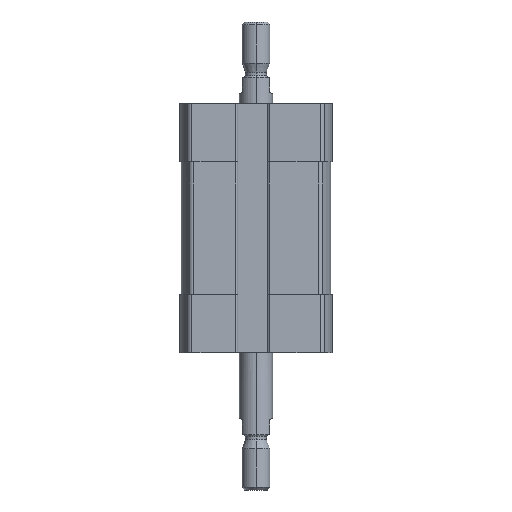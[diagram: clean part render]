
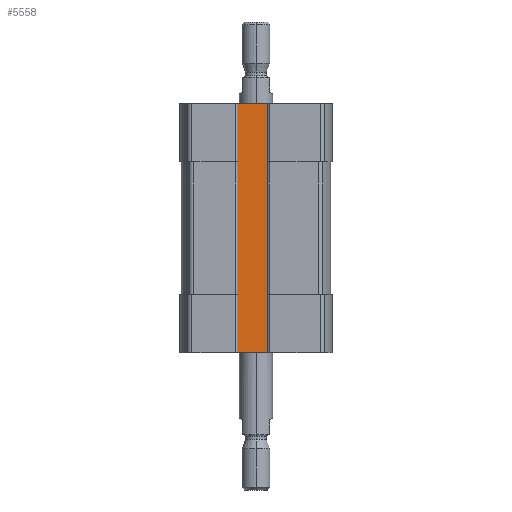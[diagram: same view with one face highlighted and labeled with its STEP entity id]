
A CAD part, left-side view. The second image highlights one B-rep face of the part: STEP entity #5558.
In plain terms, the highlighted planar face has unit normal (-1, 0, 0).
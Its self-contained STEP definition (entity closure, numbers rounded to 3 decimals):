
#625 = VERTEX_POINT ( 'NONE', #986 ) ;
#986 = CARTESIAN_POINT ( 'NONE',  ( -8.3, 3.6, 0. ) ) ;
#1101 = DIRECTION ( 'NONE',  ( 0., -1., 0. ) ) ;
#1562 = CARTESIAN_POINT ( 'NONE',  ( -8.3, 3.6, -45. ) ) ;
#1595 = VERTEX_POINT ( 'NONE', #3429 ) ;
#1649 = ORIENTED_EDGE ( 'NONE', *, *, #9228, .F. ) ;
#1674 = PLANE ( 'NONE',  #7611 ) ;
#1834 = ORIENTED_EDGE ( 'NONE', *, *, #1843, .T. ) ;
#1843 = EDGE_CURVE ( 'NONE', #1595, #7880, #7346, .T. ) ;
#2472 = CARTESIAN_POINT ( 'NONE',  ( -8.3, -2.4, 0. ) ) ;
#2666 = LINE ( 'NONE', #8158, #4056 ) ;
#3360 = DIRECTION ( 'NONE',  ( -1., 0., 0. ) ) ;
#3429 = CARTESIAN_POINT ( 'NONE',  ( -8.3, 3.6, -45. ) ) ;
#4056 = VECTOR ( 'NONE', #11775, 1000. ) ;
#4622 = VECTOR ( 'NONE', #10766, 1000. ) ;
#4724 = LINE ( 'NONE', #5561, #11575 ) ;
#5172 = VERTEX_POINT ( 'NONE', #2472 ) ;
#5320 = DIRECTION ( 'NONE',  ( 0., 0., 1. ) ) ;
#5538 = LINE ( 'NONE', #9931, #4622 ) ;
#5558 = ADVANCED_FACE ( 'NONE', ( #6265 ), #1674, .T. ) ;
#5561 = CARTESIAN_POINT ( 'NONE',  ( -8.3, 3.6, -45. ) ) ;
#5969 = CARTESIAN_POINT ( 'NONE',  ( -8.3, -2.4, -45. ) ) ;
#6006 = ORIENTED_EDGE ( 'NONE', *, *, #9286, .T. ) ;
#6265 = FACE_OUTER_BOUND ( 'NONE', #8925, .T. ) ;
#6887 = VECTOR ( 'NONE', #1101, 1000. ) ;
#6931 = EDGE_CURVE ( 'NONE', #1595, #625, #4724, .T. ) ;
#7323 = ORIENTED_EDGE ( 'NONE', *, *, #6931, .F. ) ;
#7346 = LINE ( 'NONE', #9128, #6887 ) ;
#7611 = AXIS2_PLACEMENT_3D ( 'NONE', #1562, #3360, #5320 ) ;
#7880 = VERTEX_POINT ( 'NONE', #5969 ) ;
#8158 = CARTESIAN_POINT ( 'NONE',  ( -8.3, 3.6, 0. ) ) ;
#8925 = EDGE_LOOP ( 'NONE', ( #1649, #7323, #1834, #6006 ) ) ;
#9116 = DIRECTION ( 'NONE',  ( 0., 0., 1. ) ) ;
#9128 = CARTESIAN_POINT ( 'NONE',  ( -8.3, 3.6, -45. ) ) ;
#9228 = EDGE_CURVE ( 'NONE', #625, #5172, #2666, .T. ) ;
#9286 = EDGE_CURVE ( 'NONE', #7880, #5172, #5538, .T. ) ;
#9931 = CARTESIAN_POINT ( 'NONE',  ( -8.3, -2.4, -45. ) ) ;
#10766 = DIRECTION ( 'NONE',  ( 0., 0., 1. ) ) ;
#11575 = VECTOR ( 'NONE', #9116, 1000. ) ;
#11775 = DIRECTION ( 'NONE',  ( 0., -1., 0. ) ) ;
